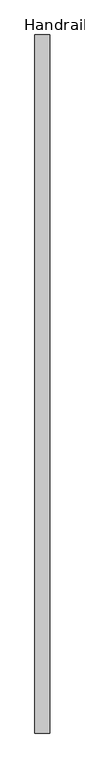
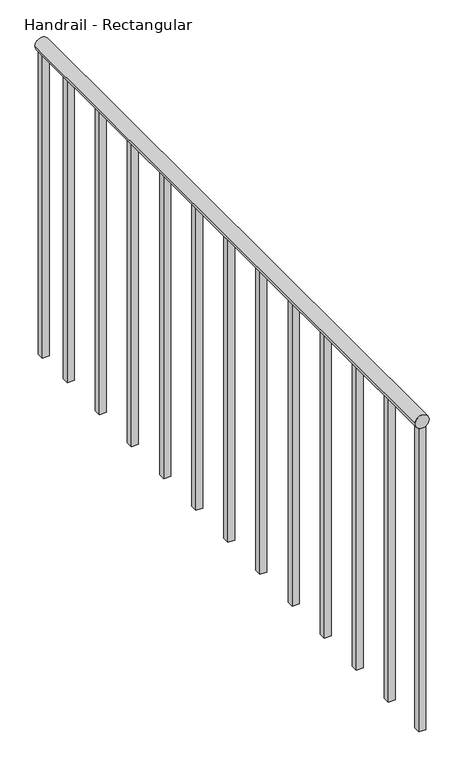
"""IFC4 building model written with IfcOpenShell, lengths in millimetres: railing geometry, Handrail - Rectangular."""

from ifc_helpers import new_model, si_unit, point, frame, frame_2d, origin, place, context, project, spatial, polyline, circle_curve, trimmed, segment, composite_curve, outline, extrude, source, transform, mapped, element, save


def handrail_rectangular_2b3bb03d(model_context):
    return source(origin(), model_context, "Body", "SweptSolid", [
        extrude(outline(composite_curve([segment(trimmed(circle_curve(frame_2d((3943.35, -32167.4839563)), 19.05), [point((3943.35, -32186.5339563))], [point((3943.35, -32148.4339563))], False, "CARTESIAN"), True, "CONTINUOUS"), segment(trimmed(circle_curve(frame_2d((3943.35, -32167.4839563)), 19.05), [point((3943.35, -32148.4339563))], [point((3943.35, -32186.5339563))], False, "CARTESIAN"), True, "CONTINUOUS")], self_intersect=False)), frame((0.0, -33825.9683133, 0.0), z_axis=(0.0, 1.0, 0.0), x_axis=(0.0, 0.0, 1.0)), (0.0, 0.0, 1.0), 1803.4),
        extrude(outline(polyline([(-32157.9589563, -32159.0933133), (-32177.0089563, -32159.0933133), (-32177.0089563, -32140.0433133), (-32157.9589563, -32140.0433133), (-32157.9589563, -32159.0933133)])), frame((0.0, 0.0, 3048.0), z_axis=(0.0, 0.0, 1.0), x_axis=(1.0, 0.0, 0.0)), (0.0, 0.0, 1.0), 876.3),
        extrude(outline(polyline([(-32157.9589563, -32311.4933133), (-32177.0089563, -32311.4933133), (-32177.0089563, -32292.4433133), (-32157.9589563, -32292.4433133), (-32157.9589563, -32311.4933133)])), frame((0.0, 0.0, 3048.0), z_axis=(0.0, 0.0, 1.0), x_axis=(1.0, 0.0, 0.0)), (0.0, 0.0, 1.0), 876.3),
        extrude(outline(polyline([(-32157.9589563, -32463.8933133), (-32177.0089563, -32463.8933133), (-32177.0089563, -32444.8433133), (-32157.9589563, -32444.8433133), (-32157.9589563, -32463.8933133)])), frame((0.0, 0.0, 3048.0), z_axis=(0.0, 0.0, 1.0), x_axis=(1.0, 0.0, 0.0)), (0.0, 0.0, 1.0), 876.3),
        extrude(outline(polyline([(-32157.9589563, -32616.2933133), (-32177.0089563, -32616.2933133), (-32177.0089563, -32597.2433133), (-32157.9589563, -32597.2433133), (-32157.9589563, -32616.2933133)])), frame((0.0, 0.0, 3048.0), z_axis=(0.0, 0.0, 1.0), x_axis=(1.0, 0.0, 0.0)), (0.0, 0.0, 1.0), 876.3),
        extrude(outline(polyline([(-32157.9589563, -32768.6933133), (-32177.0089563, -32768.6933133), (-32177.0089563, -32749.6433133), (-32157.9589563, -32749.6433133), (-32157.9589563, -32768.6933133)])), frame((0.0, 0.0, 3048.0), z_axis=(0.0, 0.0, 1.0), x_axis=(1.0, 0.0, 0.0)), (0.0, 0.0, 1.0), 876.3),
        extrude(outline(polyline([(-32157.9589563, -32921.0933133), (-32177.0089563, -32921.0933133), (-32177.0089563, -32902.0433133), (-32157.9589563, -32902.0433133), (-32157.9589563, -32921.0933133)])), frame((0.0, 0.0, 3048.0), z_axis=(0.0, 0.0, 1.0), x_axis=(1.0, 0.0, 0.0)), (0.0, 0.0, 1.0), 876.3),
        extrude(outline(polyline([(-32157.9589563, -33073.4933133), (-32177.0089563, -33073.4933133), (-32177.0089563, -33054.4433133), (-32157.9589563, -33054.4433133), (-32157.9589563, -33073.4933133)])), frame((0.0, 0.0, 3048.0), z_axis=(0.0, 0.0, 1.0), x_axis=(1.0, 0.0, 0.0)), (0.0, 0.0, 1.0), 876.3),
        extrude(outline(polyline([(-32157.9589563, -33225.8933133), (-32177.0089563, -33225.8933133), (-32177.0089563, -33206.8433133), (-32157.9589563, -33206.8433133), (-32157.9589563, -33225.8933133)])), frame((0.0, 0.0, 3048.0), z_axis=(0.0, 0.0, 1.0), x_axis=(1.0, 0.0, 0.0)), (0.0, 0.0, 1.0), 876.3),
        extrude(outline(polyline([(-32157.9589563, -33378.2933133), (-32177.0089563, -33378.2933133), (-32177.0089563, -33359.2433133), (-32157.9589563, -33359.2433133), (-32157.9589563, -33378.2933133)])), frame((0.0, 0.0, 3048.0), z_axis=(0.0, 0.0, 1.0), x_axis=(1.0, 0.0, 0.0)), (0.0, 0.0, 1.0), 876.3),
        extrude(outline(polyline([(-32157.9589563, -33530.6933133), (-32177.0089563, -33530.6933133), (-32177.0089563, -33511.6433133), (-32157.9589563, -33511.6433133), (-32157.9589563, -33530.6933133)])), frame((0.0, 0.0, 3048.0), z_axis=(0.0, 0.0, 1.0), x_axis=(1.0, 0.0, 0.0)), (0.0, 0.0, 1.0), 876.3),
        extrude(outline(polyline([(-32157.9589563, -33683.0933133), (-32177.0089563, -33683.0933133), (-32177.0089563, -33664.0433133), (-32157.9589563, -33664.0433133), (-32157.9589563, -33683.0933133)])), frame((0.0, 0.0, 3048.0), z_axis=(0.0, 0.0, 1.0), x_axis=(1.0, 0.0, 0.0)), (0.0, 0.0, 1.0), 876.3),
        extrude(outline(polyline([(-32157.9589563, -32041.6183133), (-32177.0089563, -32041.6183133), (-32177.0089563, -32022.5683133), (-32157.9589563, -32022.5683133), (-32157.9589563, -32041.6183133)])), frame((0.0, 0.0, 3048.0), z_axis=(0.0, 0.0, 1.0), x_axis=(1.0, 0.0, 0.0)), (0.0, 0.0, 1.0), 876.3),
        extrude(outline(polyline([(-32157.9589563, -33825.9683133), (-32177.0089563, -33825.9683133), (-32177.0089563, -33806.9183133), (-32157.9589563, -33806.9183133), (-32157.9589563, -33825.9683133)])), frame((0.0, 0.0, 3048.0), z_axis=(0.0, 0.0, 1.0), x_axis=(1.0, 0.0, 0.0)), (0.0, 0.0, 1.0), 876.3),
    ])


if __name__ == "__main__":
    model = new_model("IFC4")
    model_context = context("Model", 3, world=origin())
    ifc_project = project(units=[si_unit("LENGTHUNIT", "METRE", prefix="MILLI")], contexts=[model_context])
    site = spatial("IfcSite", under=ifc_project)
    building = spatial("IfcBuilding", under=site)
    placement = place(None, origin())
    handrail_rectangular_shape = handrail_rectangular_2b3bb03d(model_context)
    element("IfcRailing", 1, ObjectType="Handrail - Rectangular", at=placement, inside=building, context=model_context, shape_type="MappedRepresentation", body=[
        mapped(handrail_rectangular_shape, transform((0.0, 0.0, 0.0), x_axis=(1.0, 0.0, 0.0), y_axis=(0.0, 1.0, 0.0), z_axis=(0.0, 0.0, 1.0))),
    ])
    save(model, "model.ifc")
